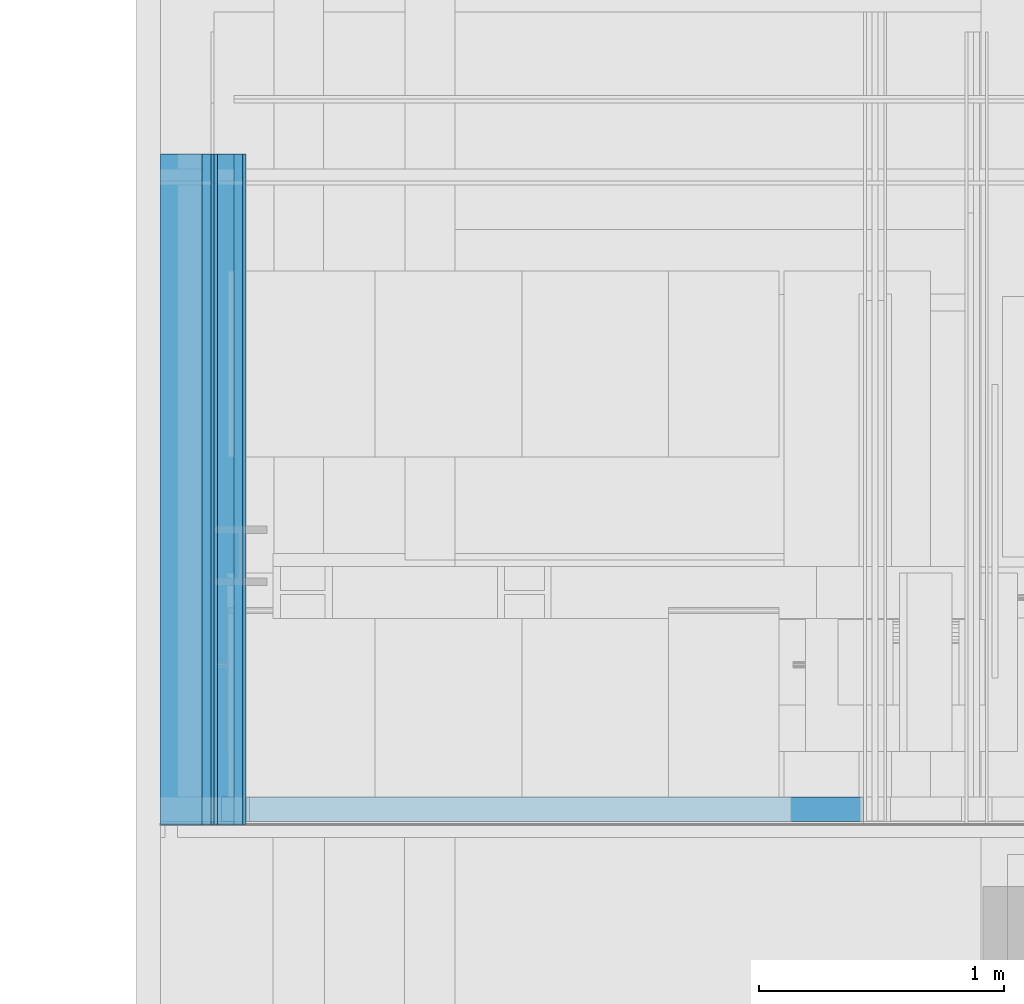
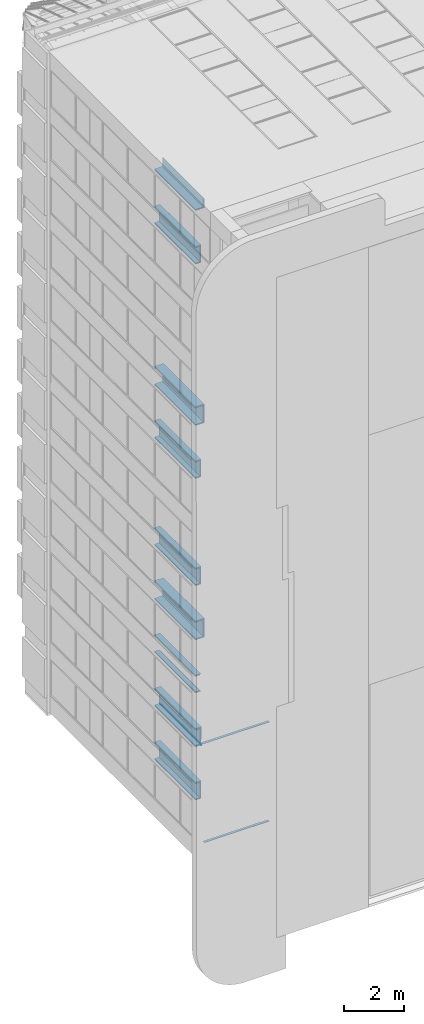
# One storey, part 36 of 583: 56 building element parts, 27 elements without a shape of their own.
"""IFC2X3 building model written with IfcOpenShell, lengths in metres."""

from ifc_helpers import new_model, entity, si_unit, converted_unit, derived_unit, money_unit, direction, frame, frame_2d, origin_with_axes, place, context, subcontext, project, spatial, polyline, rectangle, outline, extrude, material, type_object, element, aggregate, save


model = new_model("IFC2X3")

# Units and contexts
model_context = context("Model", 3, precision=1e-05, world=origin_with_axes(), true_north=direction((0.0, 1.0)))
body_context = subcontext(model_context, "Body", "Model", "MODEL_VIEW", scale=1.0)
ifc_project = project(units=[si_unit("LENGTHUNIT", "METRE"), si_unit("AREAUNIT", "SQUARE_METRE"), si_unit("VOLUMEUNIT", "CUBIC_METRE"), si_unit("ABSORBEDDOSEUNIT", "GRAY"), si_unit("AMOUNTOFSUBSTANCEUNIT", "MOLE"), si_unit("DOSEEQUIVALENTUNIT", "SIEVERT"), si_unit("ELECTRICCAPACITANCEUNIT", "FARAD"), si_unit("ELECTRICCHARGEUNIT", "COULOMB"), si_unit("ELECTRICCONDUCTANCEUNIT", "SIEMENS"), si_unit("ELECTRICCURRENTUNIT", "AMPERE"), si_unit("ELECTRICRESISTANCEUNIT", "OHM"), si_unit("ELECTRICVOLTAGEUNIT", "VOLT"), si_unit("ENERGYUNIT", "JOULE"), si_unit("FORCEUNIT", "NEWTON"), si_unit("FREQUENCYUNIT", "HERTZ"), si_unit("ILLUMINANCEUNIT", "LUX"), si_unit("INDUCTANCEUNIT", "HENRY"), si_unit("LUMINOUSFLUXUNIT", "LUMEN"), si_unit("LUMINOUSINTENSITYUNIT", "CANDELA"), si_unit("MAGNETICFLUXDENSITYUNIT", "TESLA"), si_unit("MAGNETICFLUXUNIT", "WEBER"), si_unit("MASSUNIT", "GRAM"), converted_unit("PLANEANGLEUNIT", "degree", entity("IfcReal", 0.0174532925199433), si_unit("PLANEANGLEUNIT", "RADIAN"), dimensions=[0, 0, 0, 0, 0, 0, 0]), si_unit("POWERUNIT", "WATT"), si_unit("PRESSUREUNIT", "PASCAL"), si_unit("RADIOACTIVITYUNIT", "BECQUEREL"), si_unit("SOLIDANGLEUNIT", "STERADIAN"), si_unit("THERMODYNAMICTEMPERATUREUNIT", "KELVIN"), si_unit("TIMEUNIT", "SECOND"), derived_unit("ACCELERATIONUNIT", [(si_unit("LENGTHUNIT", "METRE"), 1), (si_unit("TIMEUNIT", "SECOND"), -2)]), derived_unit("ANGULARVELOCITYUNIT", [(converted_unit("PLANEANGLEUNIT", "degree", entity("IfcReal", 0.0174532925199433), si_unit("PLANEANGLEUNIT", "RADIAN"), dimensions=[0, 0, 0, 0, 0, 0, 0]), 1), (si_unit("TIMEUNIT", "SECOND"), -1)]), derived_unit("CURVATUREUNIT", [(converted_unit("PLANEANGLEUNIT", "degree", entity("IfcReal", 0.0174532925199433), si_unit("PLANEANGLEUNIT", "RADIAN"), dimensions=[0, 0, 0, 0, 0, 0, 0]), 1), (si_unit("LENGTHUNIT", "METRE"), -1)]), derived_unit("DYNAMICVISCOSITYUNIT", [(si_unit("PRESSUREUNIT", "PASCAL"), 1), (si_unit("TIMEUNIT", "SECOND"), 1)]), derived_unit("HEATFLUXDENSITYUNIT", [(si_unit("POWERUNIT", "WATT"), 1), (si_unit("LENGTHUNIT", "METRE"), -2)]), derived_unit("HEATINGVALUEUNIT", [(si_unit("ENERGYUNIT", "JOULE"), 1), (si_unit("MASSUNIT", "GRAM"), -1)]), derived_unit("INTEGERCOUNTRATEUNIT", [(si_unit("TIMEUNIT", "SECOND"), -1)]), derived_unit("IONCONCENTRATIONUNIT", [(si_unit("MASSUNIT", "GRAM"), 1), (si_unit("VOLUMEUNIT", "CUBIC_METRE"), -1)]), derived_unit("ISOTHERMALMOISTURECAPACITYUNIT", [(si_unit("VOLUMEUNIT", "CUBIC_METRE"), 1), (si_unit("MASSUNIT", "GRAM"), -1)]), derived_unit("KINEMATICVISCOSITYUNIT", [(si_unit("AREAUNIT", "SQUARE_METRE"), 1), (si_unit("TIMEUNIT", "SECOND"), -1)]), derived_unit("LINEARFORCEUNIT", [(si_unit("FORCEUNIT", "NEWTON"), 1), (si_unit("LENGTHUNIT", "METRE"), -1)]), derived_unit("LINEARMOMENTUNIT", [(si_unit("FORCEUNIT", "NEWTON"), 1), (si_unit("LENGTHUNIT", "METRE"), -1)]), derived_unit("LINEARSTIFFNESSUNIT", [(si_unit("FORCEUNIT", "NEWTON"), 1), (si_unit("LENGTHUNIT", "METRE"), -1)]), derived_unit("LINEARVELOCITYUNIT", [(si_unit("LENGTHUNIT", "METRE"), 1), (si_unit("TIMEUNIT", "SECOND"), -1)]), derived_unit("LUMINOUSINTENSITYDISTRIBUTIONUNIT", [(si_unit("LUMINOUSINTENSITYUNIT", "CANDELA"), 1), (si_unit("LUMINOUSFLUXUNIT", "LUMEN"), -1)]), derived_unit("MASSDENSITYUNIT", [(si_unit("MASSUNIT", "GRAM"), 1), (si_unit("VOLUMEUNIT", "CUBIC_METRE"), -1)]), derived_unit("MASSFLOWRATEUNIT", [(si_unit("MASSUNIT", "GRAM"), 1), (si_unit("TIMEUNIT", "SECOND"), -1)]), derived_unit("MASSPERLENGTHUNIT", [(si_unit("MASSUNIT", "GRAM"), 1), (si_unit("LENGTHUNIT", "METRE"), -1)]), derived_unit("MODULUSOFELASTICITYUNIT", [(si_unit("FORCEUNIT", "NEWTON"), 1), (si_unit("AREAUNIT", "SQUARE_METRE"), -1)]), derived_unit("MODULUSOFLINEARSUBGRADEREACTIONUNIT", [(si_unit("FORCEUNIT", "NEWTON"), 1), (si_unit("LENGTHUNIT", "METRE"), -2)]), derived_unit("MODULUSOFROTATIONALSUBGRADEREACTIONUNIT", [(si_unit("FORCEUNIT", "NEWTON"), 1), (si_unit("LENGTHUNIT", "METRE"), 1)]), derived_unit("MODULUSOFSUBGRADEREACTIONUNIT", [(si_unit("FORCEUNIT", "NEWTON"), 1), (si_unit("VOLUMEUNIT", "CUBIC_METRE"), -1)]), derived_unit("MOISTUREDIFFUSIVITYUNIT", [(si_unit("VOLUMEUNIT", "CUBIC_METRE"), 1), (si_unit("TIMEUNIT", "SECOND"), -1)]), derived_unit("MOLECULARWEIGHTUNIT", [(si_unit("MASSUNIT", "GRAM"), 1), (si_unit("AMOUNTOFSUBSTANCEUNIT", "MOLE"), -1)]), derived_unit("PLANARFORCEUNIT", [(si_unit("FORCEUNIT", "NEWTON"), 1), (si_unit("LENGTHUNIT", "METRE"), -2)]), derived_unit("ROTATIONALFREQUENCYUNIT", [(si_unit("TIMEUNIT", "SECOND"), -1)]), derived_unit("ROTATIONALMASSUNIT", [(si_unit("MASSUNIT", "GRAM"), 1), (si_unit("LENGTHUNIT", "METRE"), 2)]), derived_unit("ROTATIONALSTIFFNESSUNIT", [(si_unit("FORCEUNIT", "NEWTON"), 1), (si_unit("LENGTHUNIT", "METRE"), 1), (converted_unit("PLANEANGLEUNIT", "degree", entity("IfcReal", 0.0174532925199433), si_unit("PLANEANGLEUNIT", "RADIAN"), dimensions=[0, 0, 0, 0, 0, 0, 0]), -1)]), derived_unit("SECTIONAREAINTEGRALUNIT", [(si_unit("LENGTHUNIT", "METRE"), 5)]), derived_unit("SECTIONMODULUSUNIT", [(si_unit("LENGTHUNIT", "METRE"), 3)]), derived_unit("SHEARMODULUSUNIT", [(si_unit("FORCEUNIT", "NEWTON"), 1), (si_unit("AREAUNIT", "SQUARE_METRE"), -1)]), derived_unit("SOUNDPOWERUNIT", [(si_unit("ENERGYUNIT", "JOULE"), 1), (si_unit("TIMEUNIT", "SECOND"), -1)]), derived_unit("SPECIFICHEATCAPACITYUNIT", [(si_unit("FORCEUNIT", "NEWTON"), 1), (si_unit("MASSUNIT", "GRAM"), -1), (si_unit("THERMODYNAMICTEMPERATUREUNIT", "KELVIN"), -1)]), derived_unit("TEMPERATUREGRADIENTUNIT", [(si_unit("THERMODYNAMICTEMPERATUREUNIT", "KELVIN"), 1), (si_unit("LENGTHUNIT", "METRE"), -1)]), derived_unit("THERMALADMITTANCEUNIT", [(si_unit("POWERUNIT", "WATT"), 1), (si_unit("AREAUNIT", "SQUARE_METRE"), -1), (si_unit("THERMODYNAMICTEMPERATUREUNIT", "KELVIN"), -1)]), derived_unit("THERMALCONDUCTANCEUNIT", [(si_unit("POWERUNIT", "WATT"), 1), (si_unit("LENGTHUNIT", "METRE"), -1), (si_unit("THERMODYNAMICTEMPERATUREUNIT", "KELVIN"), -1)]), derived_unit("THERMALEXPANSIONCOEFFICIENTUNIT", [(si_unit("THERMODYNAMICTEMPERATUREUNIT", "KELVIN"), -1)]), derived_unit("THERMALRESISTANCEUNIT", [(si_unit("AREAUNIT", "SQUARE_METRE"), 1), (si_unit("POWERUNIT", "WATT"), -1)]), derived_unit("THERMALTRANSMITTANCEUNIT", [(si_unit("POWERUNIT", "WATT"), 1), (si_unit("AREAUNIT", "SQUARE_METRE"), -1), (si_unit("THERMODYNAMICTEMPERATUREUNIT", "KELVIN"), -1)]), derived_unit("TORQUEUNIT", [(si_unit("FORCEUNIT", "NEWTON"), 1), (si_unit("LENGTHUNIT", "METRE"), 1)]), derived_unit("VAPORPERMEABILITYUNIT", [(si_unit("MASSUNIT", "GRAM"), 1), (si_unit("TIMEUNIT", "SECOND"), -1)]), derived_unit("VOLUMETRICFLOWRATEUNIT", [(si_unit("VOLUMEUNIT", "CUBIC_METRE"), 1), (si_unit("TIMEUNIT", "SECOND"), -1)]), derived_unit("WARPINGCONSTANTUNIT", [(si_unit("LENGTHUNIT", "METRE"), 6)]), derived_unit("WARPINGMOMENTUNIT", [(si_unit("FORCEUNIT", "NEWTON"), 1), (si_unit("LENGTHUNIT", "METRE"), 2)]), money_unit("GBP")], contexts=[model_context])

# Site, building, storey
site_placement = place(None, origin_with_axes())
site = spatial("IfcSite", under=ifc_project, at=site_placement, Name="Site", CompositionType="ELEMENT")
building_placement = place(site_placement, origin_with_axes())
building = spatial("IfcBuilding", under=site, at=building_placement, Name="Building01", CompositionType="ELEMENT")
storey_placement = place(building_placement, frame((0.0, 0.0, 20.78), z_axis=(0.0, 0.0, 1.0), x_axis=(1.0, 0.0, 0.0)))
storey = spatial("IfcBuildingStorey", under=building, at=storey_placement, Name="RL", CompositionType="ELEMENT", Elevation=20.78)

# Wall, building element parts
wall_type_1 = type_object("IfcWallType", Name="SHE_A-Walls_Type06d_ExternalWallInsulation_48mm", PredefinedType="NOTDEFINED")
wall_1_placement = place(storey_placement, frame((0.1, 5.15, -18.537), z_axis=(0.0, 1.0, 0.0), x_axis=(1.0, 0.0, 0.0)))
wall_1 = element("IfcWall", 1, at=wall_1_placement, inside=storey, type_object=wall_type_1, Name="6D", ObjectType="SHE_A-Walls_Type06d_ExternalWallInsulation_48mm")
ifc_material_1 = material(Name="A_BSUK_Insulation")
placement_1 = place(wall_1_placement, origin_with_axes())
building_element_part_1 = element("IfcBuildingElementPart", 2, at=placement_1, material=ifc_material_1, Name="1", context=body_context, shape_type="SweptSolid", body=[
    extrude(outline(polyline([(0.206, 0.036), (0.0, 0.036), (0.0, 0.0), (0.17, 0.0), (0.206, 0.036)])), origin_with_axes(), (0.0, 0.0, 1.0), 2.74),
])
ifc_material_2 = material(Name="A_BSUK_WallInternal_Finishes_Plasterboard")
building_element_part_2 = element("IfcBuildingElementPart", 3, at=placement_1, material=ifc_material_2, Name="3", context=body_context, shape_type="SweptSolid", body=[
    extrude(outline(polyline([(0.218, 0.048), (0.0, 0.048), (0.0, 0.035), (0.205, 0.035), (0.218, 0.048)])), origin_with_axes(), (0.0, 0.0, 1.0), 2.74),
])
aggregate(wall_1, [building_element_part_1, building_element_part_2])

wall_2_placement = place(storey_placement, frame((0.27, 5.15, -18.537), z_axis=(0.0, 1.0, 0.0), x_axis=(0.0, 0.0, 1.0)))
wall_2 = element("IfcWall", 4, at=wall_2_placement, inside=storey, type_object=wall_type_1, Name="6D", ObjectType="SHE_A-Walls_Type06d_ExternalWallInsulation_48mm")
placement_2 = place(wall_2_placement, origin_with_axes())
building_element_part_3 = element("IfcBuildingElementPart", 5, at=placement_2, material=ifc_material_1, Name="1", context=body_context, shape_type="SweptSolid", body=[
    extrude(outline(polyline([(0.66, 0.036), (-0.036, 0.036), (0.0, 0.0), (0.624, 0.0), (0.66, 0.036)])), origin_with_axes(), (0.0, 0.0, 1.0), 2.74),
])
building_element_part_4 = element("IfcBuildingElementPart", 6, at=placement_2, material=ifc_material_2, Name="3", context=body_context, shape_type="SweptSolid", body=[
    extrude(outline(polyline([(0.672, 0.048), (-0.048, 0.048), (-0.035, 0.035), (0.659, 0.035), (0.672, 0.048)])), origin_with_axes(), (0.0, 0.0, 1.0), 2.74),
])
aggregate(wall_2, [building_element_part_3, building_element_part_4])

wall_3_placement = place(storey_placement, frame((0.27, 5.15, -17.913), z_axis=(0.0, 1.0, 0.0), x_axis=(-1.0, 0.0, 0.0)))
wall_3 = element("IfcWall", 7, at=wall_3_placement, inside=storey, type_object=wall_type_1, Name="6D", ObjectType="SHE_A-Walls_Type06d_ExternalWallInsulation_48mm")
placement_3 = place(wall_3_placement, origin_with_axes())
building_element_part_5 = element("IfcBuildingElementPart", 8, at=placement_3, material=ifc_material_1, Name="1", context=body_context, shape_type="SweptSolid", body=[
    extrude(outline(polyline([(-0.036, 0.036), (0.0, 0.0), (0.17, 0.0), (0.17, 0.036), (-0.036, 0.036)])), origin_with_axes(), (0.0, 0.0, 1.0), 2.74),
])
building_element_part_6 = element("IfcBuildingElementPart", 9, at=placement_3, material=ifc_material_2, Name="3", context=body_context, shape_type="SweptSolid", body=[
    extrude(outline(polyline([(-0.048, 0.048), (-0.035, 0.035), (0.17, 0.035), (0.17, 0.048), (-0.048, 0.048)])), origin_with_axes(), (0.0, 0.0, 1.0), 2.74),
])
aggregate(wall_3, [building_element_part_5, building_element_part_6])

wall_4_placement = place(storey_placement, frame((0.1, 5.15, -14.157), z_axis=(0.0, 1.0, 0.0), x_axis=(1.0, 0.0, 0.0)))
wall_4 = element("IfcWall", 10, at=wall_4_placement, inside=storey, type_object=wall_type_1, Name="6D", ObjectType="SHE_A-Walls_Type06d_ExternalWallInsulation_48mm")
placement_4 = place(wall_4_placement, origin_with_axes())
building_element_part_7 = element("IfcBuildingElementPart", 11, at=placement_4, material=ifc_material_1, Name="1", context=body_context, shape_type="SweptSolid", body=[
    extrude(rectangle(XDim=0.17, YDim=0.036, at=frame_2d((0.085, 0.018), x_axis=(-1.0, 0.0))), origin_with_axes(), (0.0, 0.0, 1.0), 2.74),
])
building_element_part_8 = element("IfcBuildingElementPart", 12, at=placement_4, material=ifc_material_2, Name="3", context=body_context, shape_type="SweptSolid", body=[
    extrude(outline(polyline([(0.218, 0.048), (0.0, 0.048), (0.0, 0.035), (0.205, 0.035), (0.218, 0.048)])), origin_with_axes(), (0.0, 0.0, 1.0), 2.74),
])
aggregate(wall_4, [building_element_part_7, building_element_part_8])

wall_5_placement = place(storey_placement, frame((0.27, 5.15, -13.533), z_axis=(0.0, 1.0, 0.0), x_axis=(-1.0, 0.0, 0.0)))
wall_5 = element("IfcWall", 13, at=wall_5_placement, inside=storey, type_object=wall_type_1, Name="6D", ObjectType="SHE_A-Walls_Type06d_ExternalWallInsulation_48mm")
placement_5 = place(wall_5_placement, origin_with_axes())
building_element_part_9 = element("IfcBuildingElementPart", 14, at=placement_5, material=ifc_material_1, Name="1", context=body_context, shape_type="SweptSolid", body=[
    extrude(rectangle(XDim=0.036, YDim=0.17, at=frame_2d((0.085, 0.018), x_axis=(0.0, -1.0))), origin_with_axes(), (0.0, 0.0, 1.0), 2.74),
])
building_element_part_10 = element("IfcBuildingElementPart", 15, at=placement_5, material=ifc_material_2, Name="3", context=body_context, shape_type="SweptSolid", body=[
    extrude(outline(polyline([(-0.048, 0.048), (-0.035, 0.035), (0.17, 0.035), (0.17, 0.048), (-0.048, 0.048)])), origin_with_axes(), (0.0, 0.0, 1.0), 2.74),
])
aggregate(wall_5, [building_element_part_9, building_element_part_10])

wall_6_placement = place(storey_placement, frame((0.1, 5.15, -11.99), z_axis=(0.0, 1.0, 0.0), x_axis=(1.0, 0.0, 0.0)))
wall_6 = element("IfcWall", 16, at=wall_6_placement, inside=storey, type_object=wall_type_1, Name="6D", ObjectType="SHE_A-Walls_Type06d_ExternalWallInsulation_48mm")
placement_6 = place(wall_6_placement, origin_with_axes())
building_element_part_11 = element("IfcBuildingElementPart", 17, at=placement_6, material=ifc_material_1, Name="1", context=body_context, shape_type="SweptSolid", body=[
    extrude(outline(polyline([(0.336, 0.036), (0.0, 0.036), (0.0, 0.0), (0.3, 0.0), (0.336, 0.036)])), origin_with_axes(), (0.0, 0.0, 1.0), 2.74),
])
building_element_part_12 = element("IfcBuildingElementPart", 18, at=placement_6, material=ifc_material_2, Name="3", context=body_context, shape_type="SweptSolid", body=[
    extrude(outline(polyline([(0.348, 0.048), (0.0, 0.048), (0.0, 0.035), (0.335, 0.035), (0.348, 0.048)])), origin_with_axes(), (0.0, 0.0, 1.0), 2.74),
])
aggregate(wall_6, [building_element_part_11, building_element_part_12])

wall_7_placement = place(storey_placement, frame((0.4, 5.15, -11.99), z_axis=(0.0, 1.0, 0.0), x_axis=(0.0, 0.0, 1.0)))
wall_7 = element("IfcWall", 19, at=wall_7_placement, inside=storey, type_object=wall_type_1, Name="6D", ObjectType="SHE_A-Walls_Type06d_ExternalWallInsulation_48mm")
placement_7 = place(wall_7_placement, origin_with_axes())
building_element_part_13 = element("IfcBuildingElementPart", 20, at=placement_7, material=ifc_material_1, Name="1", context=body_context, shape_type="SweptSolid", body=[
    extrude(outline(polyline([(0.706, 0.036), (-0.036, 0.036), (0.0, 0.0), (0.67, 0.0), (0.706, 0.036)])), origin_with_axes(), (0.0, 0.0, 1.0), 2.74),
])
building_element_part_14 = element("IfcBuildingElementPart", 21, at=placement_7, material=ifc_material_2, Name="3", context=body_context, shape_type="SweptSolid", body=[
    extrude(outline(polyline([(0.718, 0.048), (-0.048, 0.048), (-0.035, 0.035), (0.705, 0.035), (0.718, 0.048)])), origin_with_axes(), (0.0, 0.0, 1.0), 2.74),
])
aggregate(wall_7, [building_element_part_13, building_element_part_14])

wall_8_placement = place(storey_placement, frame((0.4, 5.15, -11.32), z_axis=(0.0, 1.0, 0.0), x_axis=(-1.0, 0.0, 0.0)))
wall_8 = element("IfcWall", 22, at=wall_8_placement, inside=storey, type_object=wall_type_1, Name="6D", ObjectType="SHE_A-Walls_Type06d_ExternalWallInsulation_48mm")
placement_8 = place(wall_8_placement, origin_with_axes())
building_element_part_15 = element("IfcBuildingElementPart", 23, at=placement_8, material=ifc_material_1, Name="1", context=body_context, shape_type="SweptSolid", body=[
    extrude(outline(polyline([(-0.036, 0.036), (0.0, 0.0), (0.3, 0.0), (0.3, 0.036), (-0.036, 0.036)])), origin_with_axes(), (0.0, 0.0, 1.0), 2.74),
])
building_element_part_16 = element("IfcBuildingElementPart", 24, at=placement_8, material=ifc_material_2, Name="3", context=body_context, shape_type="SweptSolid", body=[
    extrude(outline(polyline([(-0.048, 0.048), (-0.035, 0.035), (0.3, 0.035), (0.3, 0.048), (-0.048, 0.048)])), origin_with_axes(), (0.0, 0.0, 1.0), 2.74),
])
aggregate(wall_8, [building_element_part_15, building_element_part_16])

wall_9_placement = place(storey_placement, frame((0.1, 5.15, -9.777), z_axis=(0.0, 1.0, 0.0), x_axis=(1.0, 0.0, 0.0)))
wall_9 = element("IfcWall", 25, at=wall_9_placement, inside=storey, type_object=wall_type_1, Name="6D", ObjectType="SHE_A-Walls_Type06d_ExternalWallInsulation_48mm")
placement_9 = place(wall_9_placement, origin_with_axes())
building_element_part_17 = element("IfcBuildingElementPart", 26, at=placement_9, material=ifc_material_1, Name="1", context=body_context, shape_type="SweptSolid", body=[
    extrude(outline(polyline([(0.206, 0.036), (0.0, 0.036), (0.0, 0.0), (0.17, 0.0), (0.206, 0.036)])), origin_with_axes(), (0.0, 0.0, 1.0), 2.74),
])
building_element_part_18 = element("IfcBuildingElementPart", 27, at=placement_9, material=ifc_material_2, Name="3", context=body_context, shape_type="SweptSolid", body=[
    extrude(outline(polyline([(0.218, 0.048), (0.0, 0.048), (0.0, 0.035), (0.205, 0.035), (0.218, 0.048)])), origin_with_axes(), (0.0, 0.0, 1.0), 2.74),
])
aggregate(wall_9, [building_element_part_17, building_element_part_18])

wall_10_placement = place(storey_placement, frame((0.27, 5.15, -9.777), z_axis=(0.0, 1.0, 0.0), x_axis=(0.0, 0.0, 1.0)))
wall_10 = element("IfcWall", 28, at=wall_10_placement, inside=storey, type_object=wall_type_1, Name="6D", ObjectType="SHE_A-Walls_Type06d_ExternalWallInsulation_48mm")
placement_10 = place(wall_10_placement, origin_with_axes())
building_element_part_19 = element("IfcBuildingElementPart", 29, at=placement_10, material=ifc_material_1, Name="1", context=body_context, shape_type="SweptSolid", body=[
    extrude(outline(polyline([(0.66, 0.036), (-0.036, 0.036), (0.0, 0.0), (0.624, 0.0), (0.66, 0.036)])), origin_with_axes(), (0.0, 0.0, 1.0), 2.74),
])
building_element_part_20 = element("IfcBuildingElementPart", 30, at=placement_10, material=ifc_material_2, Name="3", context=body_context, shape_type="SweptSolid", body=[
    extrude(outline(polyline([(0.672, 0.048), (-0.048, 0.048), (-0.035, 0.035), (0.659, 0.035), (0.672, 0.048)])), origin_with_axes(), (0.0, 0.0, 1.0), 2.74),
])
aggregate(wall_10, [building_element_part_19, building_element_part_20])

wall_11_placement = place(storey_placement, frame((0.27, 5.15, -9.153), z_axis=(0.0, 1.0, 0.0), x_axis=(-1.0, 0.0, 0.0)))
wall_11 = element("IfcWall", 31, at=wall_11_placement, inside=storey, type_object=wall_type_1, Name="6D", ObjectType="SHE_A-Walls_Type06d_ExternalWallInsulation_48mm")
placement_11 = place(wall_11_placement, origin_with_axes())
building_element_part_21 = element("IfcBuildingElementPart", 32, at=placement_11, material=ifc_material_1, Name="1", context=body_context, shape_type="SweptSolid", body=[
    extrude(outline(polyline([(-0.036, 0.036), (0.0, 0.0), (0.17, 0.0), (0.17, 0.036), (-0.036, 0.036)])), origin_with_axes(), (0.0, 0.0, 1.0), 2.74),
])
building_element_part_22 = element("IfcBuildingElementPart", 33, at=placement_11, material=ifc_material_2, Name="3", context=body_context, shape_type="SweptSolid", body=[
    extrude(outline(polyline([(-0.048, 0.048), (-0.035, 0.035), (0.17, 0.035), (0.17, 0.048), (-0.048, 0.048)])), origin_with_axes(), (0.0, 0.0, 1.0), 2.74),
])
aggregate(wall_11, [building_element_part_21, building_element_part_22])

wall_12_placement = place(storey_placement, frame((0.1, 5.15, -5.397), z_axis=(0.0, 1.0, 0.0), x_axis=(1.0, 0.0, 0.0)))
wall_12 = element("IfcWall", 34, at=wall_12_placement, inside=storey, type_object=wall_type_1, Name="6D", ObjectType="SHE_A-Walls_Type06d_ExternalWallInsulation_48mm")
placement_12 = place(wall_12_placement, origin_with_axes())
building_element_part_23 = element("IfcBuildingElementPart", 35, at=placement_12, material=ifc_material_1, Name="1", context=body_context, shape_type="SweptSolid", body=[
    extrude(outline(polyline([(0.206, 0.036), (0.0, 0.036), (0.0, 0.0), (0.17, 0.0), (0.206, 0.036)])), origin_with_axes(), (0.0, 0.0, 1.0), 2.74),
])
building_element_part_24 = element("IfcBuildingElementPart", 36, at=placement_12, material=ifc_material_2, Name="3", context=body_context, shape_type="SweptSolid", body=[
    extrude(outline(polyline([(0.218, 0.048), (0.0, 0.048), (0.0, 0.035), (0.205, 0.035), (0.218, 0.048)])), origin_with_axes(), (0.0, 0.0, 1.0), 2.74),
])
aggregate(wall_12, [building_element_part_23, building_element_part_24])

wall_13_placement = place(storey_placement, frame((0.27, 5.15, -5.397), z_axis=(0.0, 1.0, 0.0), x_axis=(0.0, 0.0, 1.0)))
wall_13 = element("IfcWall", 37, at=wall_13_placement, inside=storey, type_object=wall_type_1, Name="6D", ObjectType="SHE_A-Walls_Type06d_ExternalWallInsulation_48mm")
placement_13 = place(wall_13_placement, origin_with_axes())
building_element_part_25 = element("IfcBuildingElementPart", 38, at=placement_13, material=ifc_material_1, Name="1", context=body_context, shape_type="SweptSolid", body=[
    extrude(outline(polyline([(0.66, 0.036), (-0.036, 0.036), (0.0, 0.0), (0.624, 0.0), (0.66, 0.036)])), origin_with_axes(), (0.0, 0.0, 1.0), 2.74),
])
building_element_part_26 = element("IfcBuildingElementPart", 39, at=placement_13, material=ifc_material_2, Name="3", context=body_context, shape_type="SweptSolid", body=[
    extrude(outline(polyline([(0.672, 0.048), (-0.048, 0.048), (-0.035, 0.035), (0.659, 0.035), (0.672, 0.048)])), origin_with_axes(), (0.0, 0.0, 1.0), 2.74),
])
aggregate(wall_13, [building_element_part_25, building_element_part_26])

wall_14_placement = place(storey_placement, frame((0.27, 5.15, -4.773), z_axis=(0.0, 1.0, 0.0), x_axis=(-1.0, 0.0, 0.0)))
wall_14 = element("IfcWall", 40, at=wall_14_placement, inside=storey, type_object=wall_type_1, Name="6D", ObjectType="SHE_A-Walls_Type06d_ExternalWallInsulation_48mm")
placement_14 = place(wall_14_placement, origin_with_axes())
building_element_part_27 = element("IfcBuildingElementPart", 41, at=placement_14, material=ifc_material_1, Name="1", context=body_context, shape_type="SweptSolid", body=[
    extrude(outline(polyline([(-0.036, 0.036), (0.0, 0.0), (0.17, 0.0), (0.17, 0.036), (-0.036, 0.036)])), origin_with_axes(), (0.0, 0.0, 1.0), 2.74),
])
building_element_part_28 = element("IfcBuildingElementPart", 42, at=placement_14, material=ifc_material_2, Name="3", context=body_context, shape_type="SweptSolid", body=[
    extrude(outline(polyline([(-0.048, 0.048), (-0.035, 0.035), (0.17, 0.035), (0.17, 0.048), (-0.048, 0.048)])), origin_with_axes(), (0.0, 0.0, 1.0), 2.74),
])
aggregate(wall_14, [building_element_part_27, building_element_part_28])

wall_15_placement = place(storey_placement, frame((0.1, 5.15, -3.23), z_axis=(0.0, 1.0, 0.0), x_axis=(1.0, 0.0, 0.0)))
wall_15 = element("IfcWall", 43, at=wall_15_placement, inside=storey, type_object=wall_type_1, Name="6D", ObjectType="SHE_A-Walls_Type06d_ExternalWallInsulation_48mm")
placement_15 = place(wall_15_placement, origin_with_axes())
building_element_part_29 = element("IfcBuildingElementPart", 44, at=placement_15, material=ifc_material_1, Name="1", context=body_context, shape_type="SweptSolid", body=[
    extrude(outline(polyline([(0.336, 0.036), (0.0, 0.036), (0.0, 0.0), (0.3, 0.0), (0.336, 0.036)])), origin_with_axes(), (0.0, 0.0, 1.0), 2.74),
])
building_element_part_30 = element("IfcBuildingElementPart", 45, at=placement_15, material=ifc_material_2, Name="3", context=body_context, shape_type="SweptSolid", body=[
    extrude(outline(polyline([(0.348, 0.048), (0.0, 0.048), (0.0, 0.035), (0.335, 0.035), (0.348, 0.048)])), origin_with_axes(), (0.0, 0.0, 1.0), 2.74),
])
aggregate(wall_15, [building_element_part_29, building_element_part_30])

wall_16_placement = place(storey_placement, frame((0.4, 5.15, -3.23), z_axis=(0.0, 1.0, 0.0), x_axis=(0.0, 0.0, 1.0)))
wall_16 = element("IfcWall", 46, at=wall_16_placement, inside=storey, type_object=wall_type_1, Name="6D", ObjectType="SHE_A-Walls_Type06d_ExternalWallInsulation_48mm")
placement_16 = place(wall_16_placement, origin_with_axes())
building_element_part_31 = element("IfcBuildingElementPart", 47, at=placement_16, material=ifc_material_1, Name="1", context=body_context, shape_type="SweptSolid", body=[
    extrude(outline(polyline([(0.706, 0.036), (-0.036, 0.036), (0.0, 0.0), (0.67, 0.0), (0.706, 0.036)])), origin_with_axes(), (0.0, 0.0, 1.0), 2.74),
])
building_element_part_32 = element("IfcBuildingElementPart", 48, at=placement_16, material=ifc_material_2, Name="3", context=body_context, shape_type="SweptSolid", body=[
    extrude(outline(polyline([(0.718, 0.048), (-0.048, 0.048), (-0.035, 0.035), (0.705, 0.035), (0.718, 0.048)])), origin_with_axes(), (0.0, 0.0, 1.0), 2.74),
])
aggregate(wall_16, [building_element_part_31, building_element_part_32])

wall_17_placement = place(storey_placement, frame((0.4, 5.15, -2.56), z_axis=(0.0, 1.0, 0.0), x_axis=(-1.0, 0.0, 0.0)))
wall_17 = element("IfcWall", 49, at=wall_17_placement, inside=storey, type_object=wall_type_1, Name="6D", ObjectType="SHE_A-Walls_Type06d_ExternalWallInsulation_48mm")
placement_17 = place(wall_17_placement, origin_with_axes())
building_element_part_33 = element("IfcBuildingElementPart", 50, at=placement_17, material=ifc_material_1, Name="1", context=body_context, shape_type="SweptSolid", body=[
    extrude(outline(polyline([(-0.036, 0.036), (0.0, 0.0), (0.3, 0.0), (0.3, 0.036), (-0.036, 0.036)])), origin_with_axes(), (0.0, 0.0, 1.0), 2.74),
])
building_element_part_34 = element("IfcBuildingElementPart", 51, at=placement_17, material=ifc_material_2, Name="3", context=body_context, shape_type="SweptSolid", body=[
    extrude(outline(polyline([(-0.048, 0.048), (-0.035, 0.035), (0.3, 0.035), (0.3, 0.048), (-0.048, 0.048)])), origin_with_axes(), (0.0, 0.0, 1.0), 2.74),
])
aggregate(wall_17, [building_element_part_33, building_element_part_34])

wall_18_placement = place(storey_placement, frame((0.1, 5.15, 3.363), z_axis=(0.0, 1.0, 0.0), x_axis=(1.0, 0.0, 0.0)))
wall_18 = element("IfcWall", 52, at=wall_18_placement, inside=storey, type_object=wall_type_1, Name="6D", ObjectType="SHE_A-Walls_Type06d_ExternalWallInsulation_48mm")
placement_18 = place(wall_18_placement, origin_with_axes())
building_element_part_35 = element("IfcBuildingElementPart", 53, at=placement_18, material=ifc_material_1, Name="1", context=body_context, shape_type="SweptSolid", body=[
    extrude(outline(polyline([(0.206, 0.036), (0.0, 0.036), (0.0, 0.0), (0.17, 0.0), (0.206, 0.036)])), origin_with_axes(), (0.0, 0.0, 1.0), 2.74),
])
building_element_part_36 = element("IfcBuildingElementPart", 54, at=placement_18, material=ifc_material_2, Name="3", context=body_context, shape_type="SweptSolid", body=[
    extrude(outline(polyline([(0.218, 0.048), (0.0, 0.048), (0.0, 0.035), (0.205, 0.035), (0.218, 0.048)])), origin_with_axes(), (0.0, 0.0, 1.0), 2.74),
])
aggregate(wall_18, [building_element_part_35, building_element_part_36])

wall_19_placement = place(storey_placement, frame((0.27, 5.15, 3.363), z_axis=(0.0, 1.0, 0.0), x_axis=(0.0, 0.0, 1.0)))
wall_19 = element("IfcWall", 55, at=wall_19_placement, inside=storey, type_object=wall_type_1, Name="6D", ObjectType="SHE_A-Walls_Type06d_ExternalWallInsulation_48mm")
placement_19 = place(wall_19_placement, origin_with_axes())
building_element_part_37 = element("IfcBuildingElementPart", 56, at=placement_19, material=ifc_material_1, Name="1", context=body_context, shape_type="SweptSolid", body=[
    extrude(outline(polyline([(0.66, 0.036), (-0.036, 0.036), (0.0, 0.0), (0.624, 0.0), (0.66, 0.036)])), origin_with_axes(), (0.0, 0.0, 1.0), 2.74),
])
building_element_part_38 = element("IfcBuildingElementPart", 57, at=placement_19, material=ifc_material_2, Name="3", context=body_context, shape_type="SweptSolid", body=[
    extrude(outline(polyline([(0.672, 0.048), (-0.048, 0.048), (-0.035, 0.035), (0.659, 0.035), (0.672, 0.048)])), origin_with_axes(), (0.0, 0.0, 1.0), 2.74),
])
aggregate(wall_19, [building_element_part_37, building_element_part_38])

wall_20_placement = place(storey_placement, frame((0.27, 5.15, 3.987), z_axis=(0.0, 1.0, 0.0), x_axis=(-1.0, 0.0, 0.0)))
wall_20 = element("IfcWall", 58, at=wall_20_placement, inside=storey, type_object=wall_type_1, Name="6D", ObjectType="SHE_A-Walls_Type06d_ExternalWallInsulation_48mm")
placement_20 = place(wall_20_placement, origin_with_axes())
building_element_part_39 = element("IfcBuildingElementPart", 59, at=placement_20, material=ifc_material_1, Name="1", context=body_context, shape_type="SweptSolid", body=[
    extrude(outline(polyline([(-0.036, 0.036), (0.0, 0.0), (0.17, 0.0), (0.17, 0.036), (-0.036, 0.036)])), origin_with_axes(), (0.0, 0.0, 1.0), 2.74),
])
building_element_part_40 = element("IfcBuildingElementPart", 60, at=placement_20, material=ifc_material_2, Name="3", context=body_context, shape_type="SweptSolid", body=[
    extrude(outline(polyline([(-0.048, 0.048), (-0.035, 0.035), (0.17, 0.035), (0.17, 0.048), (-0.048, 0.048)])), origin_with_axes(), (0.0, 0.0, 1.0), 2.74),
])
aggregate(wall_20, [building_element_part_39, building_element_part_40])

wall_21_placement = place(storey_placement, frame((0.1, 5.15, 5.553), z_axis=(0.0, 1.0, 0.0), x_axis=(1.0, 0.0, 0.0)))
wall_21 = element("IfcWall", 61, at=wall_21_placement, inside=storey, type_object=wall_type_1, Name="6D", ObjectType="SHE_A-Walls_Type06d_ExternalWallInsulation_48mm")
placement_21 = place(wall_21_placement, origin_with_axes())
building_element_part_41 = element("IfcBuildingElementPart", 62, at=placement_21, material=ifc_material_1, Name="1", context=body_context, shape_type="SweptSolid", body=[
    extrude(outline(polyline([(0.336, 0.036), (0.0, 0.036), (0.0, 0.0), (0.3, 0.0), (0.336, 0.036)])), origin_with_axes(), (0.0, 0.0, 1.0), 2.74),
])
building_element_part_42 = element("IfcBuildingElementPart", 63, at=placement_21, material=ifc_material_2, Name="3", context=body_context, shape_type="SweptSolid", body=[
    extrude(outline(polyline([(0.348, 0.048), (0.0, 0.048), (0.0, 0.035), (0.335, 0.035), (0.348, 0.048)])), origin_with_axes(), (0.0, 0.0, 1.0), 2.74),
])
aggregate(wall_21, [building_element_part_41, building_element_part_42])

wall_22_placement = place(storey_placement, frame((0.4, 5.15, 5.553), z_axis=(0.0, 1.0, 0.0), x_axis=(0.0, 0.0, 1.0)))
wall_22 = element("IfcWall", 64, at=wall_22_placement, inside=storey, type_object=wall_type_1, Name="6D", ObjectType="SHE_A-Walls_Type06d_ExternalWallInsulation_48mm")
placement_22 = place(wall_22_placement, origin_with_axes())
building_element_part_43 = element("IfcBuildingElementPart", 65, at=placement_22, material=ifc_material_1, Name="1", context=body_context, shape_type="SweptSolid", body=[
    extrude(outline(polyline([(0.341, 0.036), (-0.036, 0.036), (0.0, 0.0), (0.377, 0.0), (0.341, 0.036)])), origin_with_axes(), (0.0, 0.0, 1.0), 2.74),
])
building_element_part_44 = element("IfcBuildingElementPart", 66, at=placement_22, material=ifc_material_2, Name="3", context=body_context, shape_type="SweptSolid", body=[
    extrude(outline(polyline([(0.329, 0.048), (-0.048, 0.048), (-0.035, 0.035), (0.342, 0.035), (0.329, 0.048)])), origin_with_axes(), (0.0, 0.0, 1.0), 2.74),
])
aggregate(wall_22, [building_element_part_43, building_element_part_44])

# Wall, building element part
wall_type_2 = type_object("IfcWallType", Name="SHE_A-Walls_Type01c_Partywall_225mm_twin_tall", PredefinedType="NOTDEFINED")
wall_23_placement = place(storey_placement, frame((0.306, 5.15, -16.258), z_axis=(0.0, 1.0, 0.0), x_axis=(1.0, 0.0, 0.0)))
wall_23 = element("IfcWall", 67, at=wall_23_placement, inside=storey, type_object=wall_type_2, Name="1C", ObjectType="SHE_A-Walls_Type01c_Partywall_225mm_twin_tall")
ifc_material_3 = material(Name="A_BSUK_Walls_Timber")
building_element_part_45_placement = place(wall_23_placement, origin_with_axes())
building_element_part_45 = element("IfcBuildingElementPart", 68, at=building_element_part_45_placement, material=ifc_material_3, Name="2", context=body_context, shape_type="SweptSolid", body=[
    extrude(rectangle(XDim=2.622286, YDim=0.015, at=frame_2d((1.353143, 0.1445), x_axis=(-1.0, 0.0))), frame((0.0, 0.0, 0.015), z_axis=(0.0, 0.0, 1.0), x_axis=(1.0, 0.0, 0.0)), (0.0, 0.0, 1.0), 0.1),
])
aggregate(wall_23, [building_element_part_45])

# Wall, building element parts
wall_type_3 = type_object("IfcWallType", Name="SHE_A-Walls_Type06f_ExternalWallInsulation_48+15mm", PredefinedType="NOTDEFINED")
wall_24_placement = place(storey_placement, frame((0.27, 5.15, -15.723), z_axis=(0.0, 1.0, 0.0), x_axis=(-1.0, 0.0, 0.0)))
wall_24 = element("IfcWall", 69, at=wall_24_placement, inside=storey, type_object=wall_type_3, Name="6F", ObjectType="SHE_A-Walls_Type06f_ExternalWallInsulation_48+15mm")
placement_23 = place(wall_24_placement, origin_with_axes())
building_element_part_46 = element("IfcBuildingElementPart", 70, at=placement_23, material=ifc_material_1, Name="1", context=body_context, shape_type="SweptSolid", body=[
    extrude(rectangle(XDim=0.036, YDim=0.17, at=frame_2d((0.085, 0.018), x_axis=(0.0, -1.0))), origin_with_axes(), (0.0, 0.0, 1.0), 2.74),
])
building_element_part_47 = element("IfcBuildingElementPart", 71, at=placement_23, material=ifc_material_2, Name="3", context=body_context, shape_type="SweptSolid", body=[
    extrude(outline(polyline([(-0.063, 0.063), (-0.048, 0.048), (0.17, 0.048), (0.17, 0.063), (-0.063, 0.063)])), origin_with_axes(), (0.0, 0.0, 1.0), 2.74),
])
building_element_part_48 = element("IfcBuildingElementPart", 72, at=placement_23, material=ifc_material_2, Name="4", context=body_context, shape_type="SweptSolid", body=[
    extrude(rectangle(XDim=0.012, YDim=0.206, at=frame_2d((0.067, 0.042), x_axis=(0.0, -1.0))), origin_with_axes(), (0.0, 0.0, 1.0), 2.74),
])
aggregate(wall_24, [building_element_part_46, building_element_part_47, building_element_part_48])

wall_25_placement = place(storey_placement, frame((0.1, 5.15, -16.347), z_axis=(0.0, 1.0, 0.0), x_axis=(1.0, 0.0, 0.0)))
wall_25 = element("IfcWall", 73, at=wall_25_placement, inside=storey, type_object=wall_type_3, Name="6F", ObjectType="SHE_A-Walls_Type06f_ExternalWallInsulation_48+15mm")
placement_24 = place(wall_25_placement, origin_with_axes())
building_element_part_49 = element("IfcBuildingElementPart", 74, at=placement_24, material=ifc_material_1, Name="1", context=body_context, shape_type="SweptSolid", body=[
    extrude(rectangle(XDim=0.17, YDim=0.036, at=frame_2d((0.085, 0.018), x_axis=(-1.0, 0.0))), origin_with_axes(), (0.0, 0.0, 1.0), 2.74),
])
building_element_part_50 = element("IfcBuildingElementPart", 75, at=placement_24, material=ifc_material_2, Name="3", context=body_context, shape_type="SweptSolid", body=[
    extrude(outline(polyline([(0.233, 0.063), (0.0, 0.063), (0.0, 0.048), (0.218, 0.048), (0.233, 0.063)])), origin_with_axes(), (0.0, 0.0, 1.0), 2.74),
])
building_element_part_51 = element("IfcBuildingElementPart", 76, at=placement_24, material=ifc_material_2, Name="4", context=body_context, shape_type="SweptSolid", body=[
    extrude(rectangle(XDim=0.206, YDim=0.012, at=frame_2d((0.103, 0.042), x_axis=(-1.0, 0.0))), origin_with_axes(), (0.0, 0.0, 1.0), 2.74),
])
aggregate(wall_25, [building_element_part_49, building_element_part_50, building_element_part_51])

wall_26_placement = place(storey_placement, frame((0.27, 5.15, -16.383), z_axis=(0.0, 1.0, 0.0), x_axis=(0.0, 0.0, 1.0)))
wall_26 = element("IfcWall", 77, at=wall_26_placement, inside=storey, type_object=wall_type_3, Name="6F", ObjectType="SHE_A-Walls_Type06f_ExternalWallInsulation_48+15mm")
placement_25 = place(wall_26_placement, origin_with_axes())
building_element_part_52 = element("IfcBuildingElementPart", 78, at=placement_25, material=ifc_material_1, Name="1", context=body_context, shape_type="SweptSolid", body=[
    extrude(rectangle(XDim=0.696, YDim=0.036, at=frame_2d((0.348, 0.018), x_axis=(-1.0, 0.0))), origin_with_axes(), (0.0, 0.0, 1.0), 2.74),
])
building_element_part_53 = element("IfcBuildingElementPart", 79, at=placement_25, material=ifc_material_2, Name="3", context=body_context, shape_type="SweptSolid", body=[
    extrude(outline(polyline([(0.003, 0.063), (-0.027, 0.063), (-0.012, 0.048), (0.003, 0.048), (0.003, 0.063)])), origin_with_axes(), (0.0, 0.0, 1.0), 2.74),
])
building_element_part_54 = element("IfcBuildingElementPart", 80, at=placement_25, material=ifc_material_2, Name="5", context=body_context, shape_type="SweptSolid", body=[
    extrude(outline(polyline([(0.723, 0.063), (0.198, 0.063), (0.198, 0.048), (0.708, 0.048), (0.723, 0.063)])), origin_with_axes(), (0.0, 0.0, 1.0), 2.74),
])
building_element_part_55 = element("IfcBuildingElementPart", 81, at=placement_25, material=ifc_material_2, Name="6", context=body_context, shape_type="SweptSolid", body=[
    extrude(rectangle(XDim=0.03, YDim=0.012, at=frame_2d((0.003, 0.042), x_axis=(-1.0, 0.0))), origin_with_axes(), (0.0, 0.0, 1.0), 2.74),
])
aggregate(wall_26, [building_element_part_52, building_element_part_53, building_element_part_54, building_element_part_55])

# Wall, building element part
wall_27_placement = place(storey_placement, frame((3.81018, 5.15, -20.51), z_axis=(0.0, 1.0, 0.0), x_axis=(-1.0, 0.0, 0.0)))
wall_27 = element("IfcWall", 82, at=wall_27_placement, inside=storey, type_object=wall_type_1, Name="6D", ObjectType="SHE_A-Walls_Type06d_ExternalWallInsulation_48mm")
building_element_part_56_placement = place(wall_27_placement, origin_with_axes())
building_element_part_56 = element("IfcBuildingElementPart", 83, at=building_element_part_56_placement, material=ifc_material_3, Name="3", context=body_context, shape_type="SweptSolid", body=[
    extrude(rectangle(XDim=2.507286, YDim=0.015, at=frame_2d((2.093537, 0.0555), x_axis=(-1.0, 0.0))), frame((0.0, 0.0, 0.015), z_axis=(0.0, 0.0, 1.0), x_axis=(1.0, 0.0, 0.0)), (0.0, 0.0, 1.0), 0.1),
])
aggregate(wall_27, [building_element_part_56])

save(model, "model.ifc")
